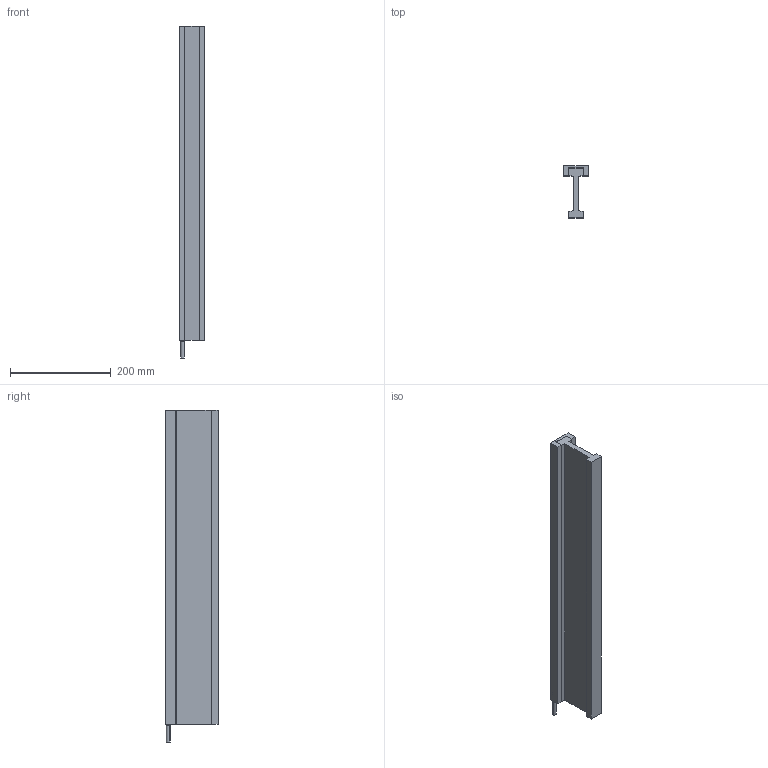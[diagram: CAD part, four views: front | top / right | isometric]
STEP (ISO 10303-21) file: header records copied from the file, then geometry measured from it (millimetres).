
FILE_DESCRIPTION (( 'STEP AP214' ), '1' );
FILE_NAME ('DX65F-C10-NH.step', '2022-09-22T03:41:44', ( '' ), ( '' ), 'SwSTEP 2.0', 'SolidWorks 2020', '' );
FILE_SCHEMA (( 'AUTOMOTIVE_DESIGN' ));
Length unit declared in the file: millimetre
Products named in the file (1): DX65F-C10-NH
Bounding box: 49 x 104 x 660 mm (x, y, z)
Volume: 1339790.2 mm3; surface area: 293634.6 mm2
Topology: 3 solids, 3 shells, 133 faces, 324 edges, 178 vertices
Faces by surface type: cylinder 56, cone 44, plane 31, torus 2
Entity records: 5079 total; most frequent: DIRECTION 662, CARTESIAN_POINT 592, ORIENTED_EDGE 560, EDGE_CURVE 280, AXIS2_PLACEMENT_3D 248, VERTEX_POINT 178, LINE 166, VECTOR 166
